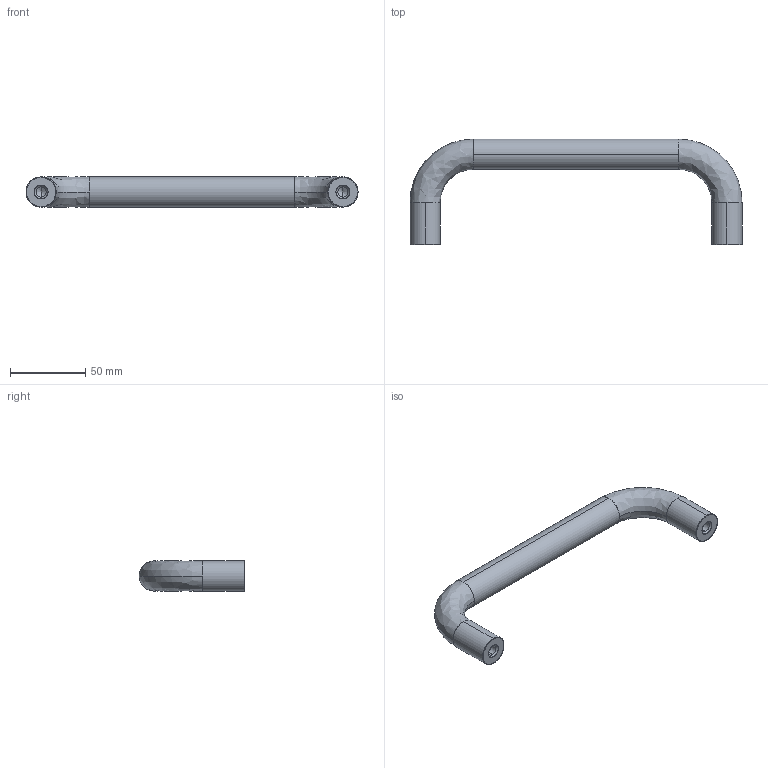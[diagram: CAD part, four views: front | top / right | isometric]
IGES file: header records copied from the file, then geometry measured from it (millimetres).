
Start section: SolidWorks IGES FILE using analytic representation for surfaces
Global section: file name: C:\WIX2\Knobs\7872\7872.W200-1.igs; native system: SolidWorks 2003 by SolidWorks Corporation; preprocessor: Version 5.3; author: Joan; date: 030722.093932; units: millimetre
Bounding box: 220 x 70 x 20 mm (x, y, z)
Surface area: 19930 mm2 (no closed solid volume)
Topology: 0 solids, 0 shells, 32 faces, 252 edges, 248 vertices
Faces by surface type: revolution 18, bspline 14
